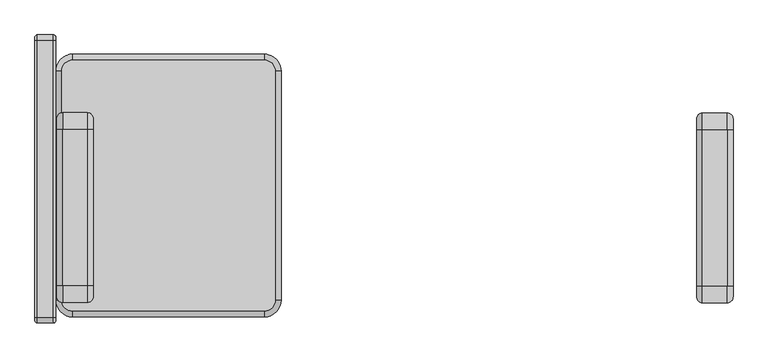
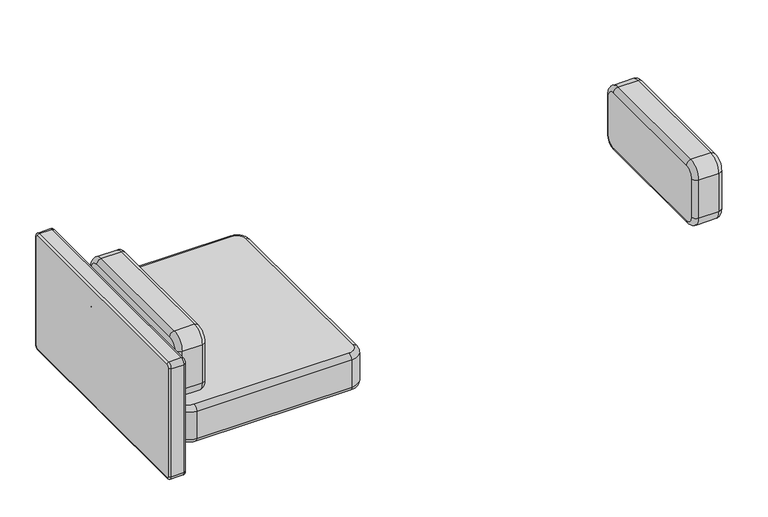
"""IFC4 building model written with IfcOpenShell, lengths in millimetres: furniture geometry, Fredericia - EJ220 Sofa 3 seaters 67 - 2233 : Fredericia - EJ220 Sofa 3 seaters 67 - 2233."""

from ifc_helpers import new_model, si_unit, point, frame, origin, place, context, project, spatial, circle_curve, ellipse_curve, trimmed, source, transform, mapped, element, save
from ifc_brep_helpers import plane_surface, cylinder_surface, revolved_surface, advanced_brep


def furniture_b410e468(model_context):
    return source(origin(), model_context, "Body", "AdvancedBrep", [
        advanced_brep(
        [(-999.6320736, 7.0681487, 623.8042203), (-999.6320736, 7.0681487, 207.3057774), (-999.6320736, 16.6681487, 197.7057774), (-999.6320736, 833.2580585, 197.7057774), (-999.6320736, 842.8580585, 207.3057774), (-999.6320736, 842.8580585, 623.8042203), (-999.6320736, 833.2580585, 633.4042203), (-999.6320736, 16.6681487, 633.4042203), (-1061.0578822, 7.0681487, 207.3057774), (-1061.0578822, 7.0681487, 623.8042203), (-1061.0578822, 16.6681487, 633.4042203), (-1061.0578822, 833.2580585, 633.4042203), (-1061.0578822, 842.8580585, 623.8042203), (-1061.0578822, 842.8580585, 207.3057774), (-1061.0578822, 833.2580585, 197.7057774), (-1061.0578822, 16.6681487, 197.7057774), (-1007.1320736, -0.4318513, 207.3057774), (-1007.1320736, -0.4318513, 623.8042203), (-1053.5578822, -0.4318513, 623.8042203), (-1053.5578822, -0.4318513, 207.3057774), (-1007.1320736, 16.6681487, 640.9042203), (-1007.1320736, 833.2580585, 640.9042203), (-1053.5578822, 833.2580585, 640.9042203), (-1053.5578822, 16.6681487, 640.9042203), (-1007.1320736, 850.3580585, 623.8042203), (-1007.1320736, 850.3580585, 207.3057774), (-1053.5578822, 850.3580585, 207.3057774), (-1053.5578822, 850.3580585, 623.8042203), (-1007.1320736, 833.2580585, 190.2057774), (-1007.1320736, 16.6681487, 190.2057774), (-1053.5578822, 16.6681487, 190.2057774), (-1053.5578822, 833.2580585, 190.2057774)],
        [
            (0, 1),
            (1, 2, circle_curve(frame((-999.6320736, 16.6681487, 207.3057774), z_axis=(1.0, 0.0, 0.0), x_axis=(0.0, 0.0, -1.0)), 9.6)),
            (2, 3),
            (3, 4, circle_curve(frame((-999.6320736, 833.2580585, 207.3057774), z_axis=(1.0, 0.0, 0.0), x_axis=(0.0, 1.0, 0.0)), 9.6)),
            (4, 5),
            (5, 6, circle_curve(frame((-999.6320736, 833.2580585, 623.8042203), z_axis=(1.0, 0.0, 0.0), x_axis=(0.0, 0.0, 1.0)), 9.6)),
            (6, 7),
            (7, 0, circle_curve(frame((-999.6320736, 16.6681487, 623.8042203), z_axis=(1.0, 0.0, 0.0), x_axis=(0.0, -1.0, 0.0)), 9.6)),
            (8, 9),
            (9, 10, circle_curve(frame((-1061.0578822, 16.6681487, 623.8042203), z_axis=(-1.0, 0.0, 0.0), x_axis=(0.0, -1.0, 0.0)), 9.6)),
            (10, 11),
            (11, 12, circle_curve(frame((-1061.0578822, 833.2580585, 623.8042203), z_axis=(-1.0, 0.0, 0.0), x_axis=(0.0, 0.0, 1.0)), 9.6)),
            (12, 13),
            (13, 14, circle_curve(frame((-1061.0578822, 833.2580585, 207.3057774), z_axis=(-1.0, 0.0, 0.0), x_axis=(0.0, 1.0, 0.0)), 9.6)),
            (14, 15),
            (15, 8, circle_curve(frame((-1061.0578822, 16.6681487, 207.3057774), z_axis=(-1.0, 0.0, 0.0), x_axis=(0.0, 0.0, -1.0)), 9.6)),
            (16, 1, circle_curve(frame((-1007.1320736, 7.0681487, 207.3057774), z_axis=(0.0, 0.0, 1.0), x_axis=(0.0, 1.0, 0.0)), 7.5)),
            (0, 17, circle_curve(frame((-1007.1320736, 7.0681487, 623.8042203), z_axis=(0.0, 0.0, -1.0), x_axis=(0.0, 1.0, 0.0)), 7.5)),
            (17, 16),
            (17, 18),
            (18, 19),
            (19, 16),
            (18, 9, circle_curve(frame((-1053.5578822, 7.0681487, 623.8042203), z_axis=(0.0, 0.0, -1.0), x_axis=(0.0, 1.0, 0.0)), 7.5)),
            (8, 19, circle_curve(frame((-1053.5578822, 7.0681487, 207.3057774), z_axis=(0.0, 0.0, 1.0), x_axis=(0.0, 1.0, 0.0)), 7.5)),
            (20, 7, circle_curve(frame((-1007.1320736, 16.6681487, 633.4042203), z_axis=(0.0, 1.0, 0.0), x_axis=(0.0, 0.0, -1.0)), 7.5)),
            (6, 21, circle_curve(frame((-1007.1320736, 833.2580585, 633.4042203), z_axis=(0.0, -1.0, 0.0), x_axis=(0.0, 0.0, -1.0)), 7.5)),
            (21, 20),
            (21, 22),
            (22, 23),
            (23, 20),
            (22, 11, circle_curve(frame((-1053.5578822, 833.2580585, 633.4042203), z_axis=(0.0, -1.0, 0.0), x_axis=(0.0, 0.0, -1.0)), 7.5)),
            (10, 23, circle_curve(frame((-1053.5578822, 16.6681487, 633.4042203), z_axis=(0.0, 1.0, 0.0), x_axis=(0.0, 0.0, -1.0)), 7.5)),
            (24, 5, circle_curve(frame((-1007.1320736, 842.8580585, 623.8042203), z_axis=(0.0, 0.0, -1.0), x_axis=(0.0, -1.0, 0.0)), 7.5)),
            (4, 25, circle_curve(frame((-1007.1320736, 842.8580585, 207.3057774), z_axis=(0.0, 0.0, 1.0), x_axis=(0.0, -1.0, 0.0)), 7.5)),
            (25, 24),
            (25, 26),
            (26, 27),
            (27, 24),
            (26, 13, circle_curve(frame((-1053.5578822, 842.8580585, 207.3057774), z_axis=(0.0, 0.0, 1.0), x_axis=(0.0, -1.0, 0.0)), 7.5)),
            (12, 27, circle_curve(frame((-1053.5578822, 842.8580585, 623.8042203), z_axis=(0.0, 0.0, -1.0), x_axis=(0.0, -1.0, 0.0)), 7.5)),
            (28, 3, circle_curve(frame((-1007.1320736, 833.2580585, 197.7057774), z_axis=(0.0, -1.0, 0.0), x_axis=(0.0, 0.0, 1.0)), 7.5)),
            (2, 29, circle_curve(frame((-1007.1320736, 16.6681487, 197.7057774), z_axis=(0.0, 1.0, 0.0), x_axis=(0.0, 0.0, 1.0)), 7.5)),
            (29, 28),
            (29, 30),
            (30, 31),
            (31, 28),
            (30, 15, circle_curve(frame((-1053.5578822, 16.6681487, 197.7057774), z_axis=(0.0, 1.0, 0.0), x_axis=(0.0, 0.0, 1.0)), 7.5)),
            (14, 31, circle_curve(frame((-1053.5578822, 833.2580585, 197.7057774), z_axis=(0.0, -1.0, 0.0), x_axis=(0.0, 0.0, 1.0)), 7.5)),
            (16, 29, circle_curve(frame((-1007.1320736, 16.6681487, 207.3057774), z_axis=(1.0, 0.0, 0.0), x_axis=(0.0, 0.0, -1.0)), 17.1)),
            (19, 30, circle_curve(frame((-1053.5578822, 16.6681487, 207.3057774), z_axis=(1.0, 0.0, 0.0), x_axis=(0.0, 0.0, -1.0)), 17.1)),
            (20, 17, circle_curve(frame((-1007.1320736, 16.6681487, 623.8042203), z_axis=(1.0, 0.0, 0.0), x_axis=(0.0, -1.0, 0.0)), 17.1)),
            (23, 18, circle_curve(frame((-1053.5578822, 16.6681487, 623.8042203), z_axis=(1.0, 0.0, 0.0), x_axis=(0.0, -1.0, 0.0)), 17.1)),
            (24, 21, circle_curve(frame((-1007.1320736, 833.2580585, 623.8042203), z_axis=(1.0, 0.0, 0.0), x_axis=(0.0, 0.0, 1.0)), 17.1)),
            (27, 22, circle_curve(frame((-1053.5578822, 833.2580585, 623.8042203), z_axis=(1.0, 0.0, 0.0), x_axis=(0.0, 0.0, 1.0)), 17.1)),
            (28, 25, circle_curve(frame((-1007.1320736, 833.2580585, 207.3057774), z_axis=(1.0, 0.0, 0.0), x_axis=(0.0, 1.0, 0.0)), 17.1)),
            (31, 26, circle_curve(frame((-1053.5578822, 833.2580585, 207.3057774), z_axis=(1.0, 0.0, 0.0), x_axis=(0.0, 1.0, 0.0)), 17.1)),
        ],
        [
            plane_surface(frame((-999.6320736, 828.5456131, 625.9042203), z_axis=(1.0, 0.0, 0.0), x_axis=(0.0, -1.0, 0.0))),
            plane_surface(frame((-1061.0578822, 828.5456131, 625.9042203), z_axis=(-1.0, 0.0, 0.0), x_axis=(0.0, 1.0, 0.0))),
            cylinder_surface(frame((-1007.1320736, 7.0681487, 207.3057774), z_axis=(0.0, 0.0, -1.0), x_axis=(0.0, 1.0, 0.0)), 7.5),
            plane_surface(frame((-1007.1320736, -0.4318513, 207.3057774), z_axis=(0.0, -1.0, 0.0), x_axis=(0.0, 0.0, 1.0))),
            cylinder_surface(frame((-1053.5578822, 7.0681487, 207.3057774), z_axis=(0.0, 0.0, -1.0), x_axis=(0.0, 1.0, 0.0)), 7.5),
            cylinder_surface(frame((-1007.1320736, 16.6681487, 633.4042203), z_axis=(0.0, -1.0, 0.0), x_axis=(0.0, 0.0, -1.0)), 7.5),
            plane_surface(frame((-1007.1320736, 16.6681487, 640.9042203), z_axis=(0.0, 0.0, 1.0), x_axis=(0.0, 1.0, 0.0))),
            cylinder_surface(frame((-1053.5578822, 16.6681487, 633.4042203), z_axis=(0.0, -1.0, 0.0), x_axis=(0.0, 0.0, -1.0)), 7.5),
            cylinder_surface(frame((-1007.1320736, 842.8580585, 623.8042203), z_axis=(0.0, 0.0, 1.0), x_axis=(0.0, -1.0, 0.0)), 7.5),
            plane_surface(frame((-1007.1320736, 850.3580585, 623.8042203), z_axis=(0.0, 1.0, 0.0), x_axis=(0.0, 0.0, -1.0))),
            cylinder_surface(frame((-1053.5578822, 842.8580585, 623.8042203), z_axis=(0.0, 0.0, 1.0), x_axis=(0.0, -1.0, 0.0)), 7.5),
            cylinder_surface(frame((-1007.1320736, 833.2580585, 197.7057774), z_axis=(0.0, 1.0, 0.0), x_axis=(0.0, 0.0, 1.0)), 7.5),
            plane_surface(frame((-1007.1320736, 833.2580585, 190.2057774), z_axis=(0.0, 0.0, -1.0), x_axis=(0.0, -1.0, 0.0))),
            cylinder_surface(frame((-1053.5578822, 833.2580585, 197.7057774), z_axis=(0.0, 1.0, 0.0), x_axis=(0.0, 0.0, 1.0)), 7.5),
            revolved_surface(trimmed(ellipse_curve(frame((-1007.1320736, 16.6681487, 197.7057774), z_axis=(0.0, 1.0, 0.0), x_axis=(0.0, 0.0, 1.0)), 7.5, 7.5), [point((-999.6320736, 16.6681487, 197.7057774))], [point((-1007.1320736, 16.6681487, 190.2057774))], True, "CARTESIAN"), (-1061.0578822, 16.6681487, 207.3057774), (-1.0, 0.0, 0.0)),
            cylinder_surface(frame((-1061.0578822, 16.6681487, 207.3057774), z_axis=(-1.0, 0.0, 0.0), x_axis=(0.0, 0.0, -1.0)), 17.1),
            revolved_surface(trimmed(ellipse_curve(frame((-1053.5578822, 16.6681487, 197.7057774), z_axis=(0.0, 1.0, 0.0), x_axis=(0.0, 0.0, 1.0)), 7.5, 7.5), [point((-1053.5578822, 16.6681487, 190.2057774))], [point((-1061.0578822, 16.6681487, 197.7057774))], True, "CARTESIAN"), (-1061.0578822, 16.6681487, 207.3057774), (-1.0, 0.0, 0.0)),
            revolved_surface(trimmed(ellipse_curve(frame((-1007.1320736, 7.0681487, 623.8042203), z_axis=(0.0, 0.0, -1.0), x_axis=(0.0, 1.0, 0.0)), 7.5, 7.5), [point((-999.6320736, 7.0681487, 623.8042203))], [point((-1007.1320736, -0.4318513, 623.8042203))], True, "CARTESIAN"), (-1061.0578822, 16.6681487, 623.8042203), (-1.0, 0.0, 0.0)),
            cylinder_surface(frame((-1061.0578822, 16.6681487, 623.8042203), z_axis=(-1.0, 0.0, 0.0), x_axis=(0.0, -1.0, 0.0)), 17.1),
            revolved_surface(trimmed(ellipse_curve(frame((-1053.5578822, 7.0681487, 623.8042203), z_axis=(0.0, 0.0, -1.0), x_axis=(0.0, 1.0, 0.0)), 7.5, 7.5), [point((-1053.5578822, -0.4318513, 623.8042203))], [point((-1061.0578822, 7.0681487, 623.8042203))], True, "CARTESIAN"), (-1061.0578822, 16.6681487, 623.8042203), (-1.0, 0.0, 0.0)),
            revolved_surface(trimmed(ellipse_curve(frame((-1007.1320736, 833.2580585, 633.4042203), z_axis=(0.0, -1.0, 0.0), x_axis=(0.0, 0.0, -1.0)), 7.5, 7.5), [point((-999.6320736, 833.2580585, 633.4042203))], [point((-1007.1320736, 833.2580585, 640.9042203))], True, "CARTESIAN"), (-1061.0578822, 833.2580585, 623.8042203), (-1.0, 0.0, 0.0)),
            cylinder_surface(frame((-1061.0578822, 833.2580585, 623.8042203), z_axis=(-1.0, 0.0, 0.0), x_axis=(0.0, 0.0, 1.0)), 17.1),
            revolved_surface(trimmed(ellipse_curve(frame((-1053.5578822, 833.2580585, 633.4042203), z_axis=(0.0, -1.0, 0.0), x_axis=(0.0, 0.0, -1.0)), 7.5, 7.5), [point((-1053.5578822, 833.2580585, 640.9042203))], [point((-1061.0578822, 833.2580585, 633.4042203))], True, "CARTESIAN"), (-1061.0578822, 833.2580585, 623.8042203), (-1.0, 0.0, 0.0)),
            revolved_surface(trimmed(ellipse_curve(frame((-1007.1320736, 842.8580585, 207.3057774), z_axis=(0.0, 0.0, 1.0), x_axis=(0.0, -1.0, 0.0)), 7.5, 7.5), [point((-999.6320736, 842.8580585, 207.3057774))], [point((-1007.1320736, 850.3580585, 207.3057774))], True, "CARTESIAN"), (-1061.0578822, 833.2580585, 207.3057774), (-1.0, 0.0, 0.0)),
            cylinder_surface(frame((-1061.0578822, 833.2580585, 207.3057774), z_axis=(-1.0, 0.0, 0.0), x_axis=(0.0, 1.0, 0.0)), 17.1),
            revolved_surface(trimmed(ellipse_curve(frame((-1053.5578822, 842.8580585, 207.3057774), z_axis=(0.0, 0.0, 1.0), x_axis=(0.0, -1.0, 0.0)), 7.5, 7.5), [point((-1053.5578822, 850.3580585, 207.3057774))], [point((-1061.0578822, 842.8580585, 207.3057774))], True, "CARTESIAN"), (-1061.0578822, 833.2580585, 207.3057774), (-1.0, 0.0, 0.0)),
        ],
        [
            (0, [[1, 2, 3, 4, 5, 6, 7, 8]]),
            (1, [[9, 10, 11, 12, 13, 14, 15, 16]]),
            (2, [[17, -1, 18, 19]]),
            (3, [[-19, 20, 21, 22]]),
            (4, [[-21, 23, -9, 24]]),
            (5, [[25, -7, 26, 27]]),
            (6, [[-27, 28, 29, 30]]),
            (7, [[-29, 31, -11, 32]]),
            (8, [[33, -5, 34, 35]]),
            (9, [[-35, 36, 37, 38]]),
            (10, [[-37, 39, -13, 40]]),
            (11, [[41, -3, 42, 43]]),
            (12, [[-43, 44, 45, 46]]),
            (13, [[-45, 47, -15, 48]]),
            (14, [[-17, 49, -42, -2]]),
            (15, [[-22, 50, -44, -49]]),
            (16, [[-24, -16, -47, -50]]),
            (17, [[-18, -8, -25, 51]]),
            (18, [[-20, -51, -30, 52]]),
            (19, [[-23, -52, -32, -10]]),
            (20, [[-26, -6, -33, 53]]),
            (21, [[-28, -53, -38, 54]]),
            (22, [[-31, -54, -40, -12]]),
            (23, [[-34, -4, -41, 55]]),
            (24, [[-36, -55, -46, 56]]),
            (25, [[-39, -56, -48, -14]]),
        ],
    ),
        advanced_brep(
        [(-982.2998936, 67.7, 290.0), (-982.2998936, 743.0641303, 290.0), (-949.6320736, 775.7319503, 290.0), (-385.0, 775.7319503, 290.0), (-352.3321801, 743.0641303, 290.0), (-352.3321801, 67.7, 290.0), (-385.0, 35.0321801, 290.0), (-949.6320736, 35.0321801, 290.0), (-982.2998936, 743.0641303, 429.8211901), (-982.2998936, 67.7, 429.8211901), (-949.6320736, 35.0321801, 429.8211901), (-385.0, 35.0321801, 429.8211901), (-352.3321801, 67.7, 429.8211901), (-352.3321801, 743.0641303, 429.8211901), (-385.0, 775.7319503, 429.8211901), (-949.6320736, 775.7319503, 429.8211901), (-999.6320736, 743.0641303, 412.4890101), (-999.6320736, 743.0641303, 307.3273289), (-999.6320736, 67.7, 307.3273289), (-999.6320736, 67.7, 412.4890101), (-949.6320736, 17.7, 412.4890101), (-949.6320736, 17.7, 307.3273289), (-385.0, 17.7, 307.3273289), (-385.0, 17.7, 412.4890101), (-335.0, 67.7, 412.4890101), (-335.0, 67.7, 307.3273289), (-335.0, 743.0641303, 307.3273289), (-335.0, 743.0641303, 412.4890101), (-385.0, 793.0641303, 412.4890101), (-385.0, 793.0641303, 307.3273289), (-949.6320736, 793.0641303, 307.3273289), (-949.6320736, 793.0641303, 412.4890101)],
        [
            (0, 1),
            (1, 2, circle_curve(frame((-949.6320736, 743.0641303, 290.0), z_axis=(0.0, 0.0, -1.0), x_axis=(0.0, 1.0, 0.0)), 32.6678199)),
            (2, 3),
            (3, 4, circle_curve(frame((-385.0, 743.0641303, 290.0), z_axis=(0.0, 0.0, -1.0), x_axis=(1.0, 0.0, 0.0)), 32.6678199)),
            (4, 5),
            (5, 6, circle_curve(frame((-385.0, 67.7, 290.0), z_axis=(0.0, 0.0, -1.0), x_axis=(0.0, -1.0, 0.0)), 32.6678199)),
            (6, 7),
            (7, 0, circle_curve(frame((-949.6320736, 67.7, 290.0), z_axis=(0.0, 0.0, -1.0), x_axis=(-1.0, 0.0, 0.0)), 32.6678199)),
            (8, 9),
            (9, 10, circle_curve(frame((-949.6320736, 67.7, 429.8211901), z_axis=(0.0, 0.0, 1.0), x_axis=(-1.0, 0.0, 0.0)), 32.6678199)),
            (10, 11),
            (11, 12, circle_curve(frame((-385.0, 67.7, 429.8211901), z_axis=(0.0, 0.0, 1.0), x_axis=(0.0, -1.0, 0.0)), 32.6678199)),
            (12, 13),
            (13, 14, circle_curve(frame((-385.0, 743.0641303, 429.8211901), z_axis=(0.0, 0.0, 1.0), x_axis=(1.0, 0.0, 0.0)), 32.6678199)),
            (14, 15),
            (15, 8, circle_curve(frame((-949.6320736, 743.0641303, 429.8211901), z_axis=(0.0, 0.0, 1.0), x_axis=(0.0, 1.0, 0.0)), 32.6678199)),
            (16, 17),
            (17, 18),
            (18, 19),
            (19, 16),
            (20, 21),
            (21, 22),
            (22, 23),
            (23, 20),
            (24, 25),
            (25, 26),
            (26, 27),
            (27, 24),
            (28, 29),
            (29, 30),
            (30, 31),
            (31, 28),
            (17, 1, circle_curve(frame((-982.2998936, 743.0641303, 307.3273289), z_axis=(0.0, -1.0, 0.0), x_axis=(1.0, 0.0, 0.0)), 17.3321801)),
            (0, 18, circle_curve(frame((-982.2998936, 67.7, 307.3273289), z_axis=(0.0, 1.0, 0.0), x_axis=(1.0, 0.0, 0.0)), 17.3321801)),
            (19, 9, circle_curve(frame((-982.2998936, 67.7, 412.4890101), z_axis=(0.0, 1.0, 0.0), x_axis=(1.0, 0.0, 0.0)), 17.3321801)),
            (8, 16, circle_curve(frame((-982.2998936, 743.0641303, 412.4890101), z_axis=(0.0, -1.0, 0.0), x_axis=(1.0, 0.0, 0.0)), 17.3321801)),
            (21, 7, circle_curve(frame((-949.6320736, 35.0321801, 307.3273289), z_axis=(1.0, 0.0, 0.0), x_axis=(0.0, 1.0, 0.0)), 17.3321801)),
            (6, 22, circle_curve(frame((-385.0, 35.0321801, 307.3273289), z_axis=(-1.0, 0.0, 0.0), x_axis=(0.0, 1.0, 0.0)), 17.3321801)),
            (23, 11, circle_curve(frame((-385.0, 35.0321801, 412.4890101), z_axis=(-1.0, 0.0, 0.0), x_axis=(0.0, 1.0, 0.0)), 17.3321801)),
            (10, 20, circle_curve(frame((-949.6320736, 35.0321801, 412.4890101), z_axis=(1.0, 0.0, 0.0), x_axis=(0.0, 1.0, 0.0)), 17.3321801)),
            (25, 5, circle_curve(frame((-352.3321801, 67.7, 307.3273289), z_axis=(0.0, 1.0, 0.0), x_axis=(-1.0, 0.0, 0.0)), 17.3321801)),
            (4, 26, circle_curve(frame((-352.3321801, 743.0641303, 307.3273289), z_axis=(0.0, -1.0, 0.0), x_axis=(-1.0, 0.0, 0.0)), 17.3321801)),
            (27, 13, circle_curve(frame((-352.3321801, 743.0641303, 412.4890101), z_axis=(0.0, -1.0, 0.0), x_axis=(-1.0, 0.0, 0.0)), 17.3321801)),
            (12, 24, circle_curve(frame((-352.3321801, 67.7, 412.4890101), z_axis=(0.0, 1.0, 0.0), x_axis=(-1.0, 0.0, 0.0)), 17.3321801)),
            (29, 3, circle_curve(frame((-385.0, 775.7319503, 307.3273289), z_axis=(-1.0, 0.0, 0.0), x_axis=(0.0, -1.0, 0.0)), 17.3321801)),
            (2, 30, circle_curve(frame((-949.6320736, 775.7319503, 307.3273289), z_axis=(1.0, 0.0, 0.0), x_axis=(0.0, -1.0, 0.0)), 17.3321801)),
            (31, 15, circle_curve(frame((-949.6320736, 775.7319503, 412.4890101), z_axis=(1.0, 0.0, 0.0), x_axis=(0.0, -1.0, 0.0)), 17.3321801)),
            (14, 28, circle_curve(frame((-385.0, 775.7319503, 412.4890101), z_axis=(-1.0, 0.0, 0.0), x_axis=(0.0, -1.0, 0.0)), 17.3321801)),
            (17, 30, circle_curve(frame((-949.6320736, 743.0641303, 307.3273289), z_axis=(0.0, 0.0, -1.0), x_axis=(0.0, 1.0, 0.0)), 50.0)),
            (16, 31, circle_curve(frame((-949.6320736, 743.0641303, 412.4890101), z_axis=(0.0, 0.0, -1.0), x_axis=(0.0, 1.0, 0.0)), 50.0)),
            (21, 18, circle_curve(frame((-949.6320736, 67.7, 307.3273289), z_axis=(0.0, 0.0, -1.0), x_axis=(-1.0, 0.0, 0.0)), 50.0)),
            (20, 19, circle_curve(frame((-949.6320736, 67.7, 412.4890101), z_axis=(0.0, 0.0, -1.0), x_axis=(-1.0, 0.0, 0.0)), 50.0)),
            (25, 22, circle_curve(frame((-385.0, 67.7, 307.3273289), z_axis=(0.0, 0.0, -1.0), x_axis=(0.0, -1.0, 0.0)), 50.0)),
            (24, 23, circle_curve(frame((-385.0, 67.7, 412.4890101), z_axis=(0.0, 0.0, -1.0), x_axis=(0.0, -1.0, 0.0)), 50.0)),
            (29, 26, circle_curve(frame((-385.0, 743.0641303, 307.3273289), z_axis=(0.0, 0.0, -1.0), x_axis=(1.0, 0.0, 0.0)), 50.0)),
            (28, 27, circle_curve(frame((-385.0, 743.0641303, 412.4890101), z_axis=(0.0, 0.0, -1.0), x_axis=(1.0, 0.0, 0.0)), 50.0)),
        ],
        [
            plane_surface(frame((401.9530797, 37.7, 290.0), z_axis=(0.0, 0.0, -1.0), x_axis=(-1.0, 0.0, 0.0))),
            plane_surface(frame((401.9530797, 37.7, 429.8211901), z_axis=(0.0, 0.0, 1.0), x_axis=(1.0, 0.0, 0.0))),
            plane_surface(frame((-999.6320736, 743.0641303, 307.3273289), z_axis=(-1.0, 0.0, 0.0), x_axis=(0.0, -1.0, 0.0))),
            plane_surface(frame((-949.6320736, 17.7, 307.3273289), z_axis=(0.0, -1.0, 0.0), x_axis=(1.0, 0.0, 0.0))),
            plane_surface(frame((-335.0, 67.7, 307.3273289), z_axis=(1.0, 0.0, 0.0), x_axis=(0.0, 1.0, 0.0))),
            plane_surface(frame((-385.0, 793.0641303, 307.3273289), z_axis=(0.0, 1.0, 0.0), x_axis=(-1.0, 0.0, 0.0))),
            cylinder_surface(frame((-982.2998936, 743.0641303, 307.3273289), z_axis=(0.0, 1.0, 0.0), x_axis=(1.0, 0.0, 0.0)), 17.3321801),
            cylinder_surface(frame((-982.2998936, 743.0641303, 412.4890101), z_axis=(0.0, 1.0, 0.0), x_axis=(1.0, 0.0, 0.0)), 17.3321801),
            cylinder_surface(frame((-949.6320736, 35.0321801, 307.3273289), z_axis=(-1.0, 0.0, 0.0), x_axis=(0.0, 1.0, 0.0)), 17.3321801),
            cylinder_surface(frame((-949.6320736, 35.0321801, 412.4890101), z_axis=(-1.0, 0.0, 0.0), x_axis=(0.0, 1.0, 0.0)), 17.3321801),
            cylinder_surface(frame((-352.3321801, 67.7, 307.3273289), z_axis=(0.0, -1.0, 0.0), x_axis=(-1.0, 0.0, 0.0)), 17.3321801),
            cylinder_surface(frame((-352.3321801, 67.7, 412.4890101), z_axis=(0.0, -1.0, 0.0), x_axis=(-1.0, 0.0, 0.0)), 17.3321801),
            cylinder_surface(frame((-385.0, 775.7319503, 307.3273289), z_axis=(1.0, 0.0, 0.0), x_axis=(0.0, -1.0, 0.0)), 17.3321801),
            cylinder_surface(frame((-385.0, 775.7319503, 412.4890101), z_axis=(1.0, 0.0, 0.0), x_axis=(0.0, -1.0, 0.0)), 17.3321801),
            revolved_surface(trimmed(ellipse_curve(frame((-949.6320736, 775.7319503, 307.3273289), z_axis=(1.0, 0.0, 0.0), x_axis=(0.0, -1.0, 0.0)), 17.3321801, 17.3321801), [point((-949.6320736, 775.7319503, 289.9951488))], [point((-949.6320736, 793.0641303, 307.3273289))], True, "CARTESIAN"), (-949.6320736, 743.0641303, 474.7169816), (0.0, 0.0, 1.0)),
            cylinder_surface(frame((-949.6320736, 743.0641303, 474.7169816), z_axis=(0.0, 0.0, 1.0), x_axis=(0.0, 1.0, 0.0)), 50.0),
            revolved_surface(trimmed(ellipse_curve(frame((-949.6320736, 775.7319503, 412.4890101), z_axis=(1.0, 0.0, 0.0), x_axis=(0.0, -1.0, 0.0)), 17.3321801, 17.3321801), [point((-949.6320736, 793.0641303, 412.4890101))], [point((-949.6320736, 775.7319503, 429.8211901))], True, "CARTESIAN"), (-949.6320736, 743.0641303, 474.7169816), (0.0, 0.0, 1.0)),
            revolved_surface(trimmed(ellipse_curve(frame((-982.2998936, 67.7, 307.3273289), z_axis=(0.0, 1.0, 0.0), x_axis=(1.0, 0.0, 0.0)), 17.3321801, 17.3321801), [point((-982.2998936, 67.7, 289.9951488))], [point((-999.6320736, 67.7, 307.3273289))], True, "CARTESIAN"), (-949.6320736, 67.7, 474.7169816), (0.0, 0.0, 1.0)),
            cylinder_surface(frame((-949.6320736, 67.7, 474.7169816), z_axis=(0.0, 0.0, 1.0), x_axis=(-1.0, 0.0, 0.0)), 50.0),
            revolved_surface(trimmed(ellipse_curve(frame((-982.2998936, 67.7, 412.4890101), z_axis=(0.0, 1.0, 0.0), x_axis=(1.0, 0.0, 0.0)), 17.3321801, 17.3321801), [point((-999.6320736, 67.7, 412.4890101))], [point((-982.2998936, 67.7, 429.8211901))], True, "CARTESIAN"), (-949.6320736, 67.7, 474.7169816), (0.0, 0.0, 1.0)),
            revolved_surface(trimmed(ellipse_curve(frame((-385.0, 35.0321801, 307.3273289), z_axis=(-1.0, 0.0, 0.0), x_axis=(0.0, 1.0, 0.0)), 17.3321801, 17.3321801), [point((-385.0, 35.0321801, 289.9951488))], [point((-385.0, 17.7, 307.3273289))], True, "CARTESIAN"), (-385.0, 67.7, 474.7169816), (0.0, 0.0, 1.0)),
            cylinder_surface(frame((-385.0, 67.7, 474.7169816), z_axis=(0.0, 0.0, 1.0), x_axis=(0.0, -1.0, 0.0)), 50.0),
            revolved_surface(trimmed(ellipse_curve(frame((-385.0, 35.0321801, 412.4890101), z_axis=(-1.0, 0.0, 0.0), x_axis=(0.0, 1.0, 0.0)), 17.3321801, 17.3321801), [point((-385.0, 17.7, 412.4890101))], [point((-385.0, 35.0321801, 429.8211901))], True, "CARTESIAN"), (-385.0, 67.7, 474.7169816), (0.0, 0.0, 1.0)),
            revolved_surface(trimmed(ellipse_curve(frame((-352.3321801, 743.0641303, 307.3273289), z_axis=(0.0, -1.0, 0.0), x_axis=(-1.0, 0.0, 0.0)), 17.3321801, 17.3321801), [point((-352.3321801, 743.0641303, 289.9951488))], [point((-335.0, 743.0641303, 307.3273289))], True, "CARTESIAN"), (-385.0, 743.0641303, 474.7169816), (0.0, 0.0, 1.0)),
            cylinder_surface(frame((-385.0, 743.0641303, 474.7169816), z_axis=(0.0, 0.0, 1.0), x_axis=(1.0, 0.0, 0.0)), 50.0),
            revolved_surface(trimmed(ellipse_curve(frame((-352.3321801, 743.0641303, 412.4890101), z_axis=(0.0, -1.0, 0.0), x_axis=(-1.0, 0.0, 0.0)), 17.3321801, 17.3321801), [point((-335.0, 743.0641303, 412.4890101))], [point((-352.3321801, 743.0641303, 429.8211901))], True, "CARTESIAN"), (-385.0, 743.0641303, 474.7169816), (0.0, 0.0, 1.0)),
        ],
        [
            (0, [[1, 2, 3, 4, 5, 6, 7, 8]]),
            (1, [[9, 10, 11, 12, 13, 14, 15, 16]]),
            (2, [[17, 18, 19, 20]]),
            (3, [[21, 22, 23, 24]]),
            (4, [[25, 26, 27, 28]]),
            (5, [[29, 30, 31, 32]]),
            (6, [[-18, 33, -1, 34]]),
            (7, [[-20, 35, -9, 36]]),
            (8, [[-22, 37, -7, 38]]),
            (9, [[-24, 39, -11, 40]]),
            (10, [[-26, 41, -5, 42]]),
            (11, [[-28, 43, -13, 44]]),
            (12, [[-30, 45, -3, 46]]),
            (13, [[-32, 47, -15, 48]]),
            (14, [[-33, 49, -46, -2]]),
            (15, [[-17, 50, -31, -49]]),
            (16, [[-36, -16, -47, -50]]),
            (17, [[-34, -8, -37, 51]]),
            (18, [[-19, -51, -21, 52]]),
            (19, [[-35, -52, -40, -10]]),
            (20, [[-38, -6, -41, 53]]),
            (21, [[-23, -53, -25, 54]]),
            (22, [[-39, -54, -44, -12]]),
            (23, [[-42, -4, -45, 55]]),
            (24, [[-27, -55, -29, 56]]),
            (25, [[-43, -56, -48, -14]]),
        ],
    ),
        advanced_brep(
        [(997.4140678, 569.5681487, 663.3026247), (997.4140678, 109.5681487, 663.3026247), (997.4140678, 76.9003288, 630.6348048), (997.4140678, 76.9003288, 484.0806659), (997.4140678, 109.5681487, 451.412846), (997.4140678, 569.5681487, 451.412846), (997.4140678, 602.2359687, 484.0806659), (997.4140678, 602.2359687, 630.6348048), (889.7501158, 109.5681487, 663.3026247), (889.7501158, 569.5681487, 663.3026247), (889.7501158, 602.2359687, 630.6348048), (889.7501158, 602.2359687, 484.0806659), (889.7501158, 569.5681487, 451.412846), (889.7501158, 109.5681487, 451.412846), (889.7501158, 76.9003288, 484.0806659), (889.7501158, 76.9003288, 630.6348048), (980.086739, 569.5681487, 680.6348048), (907.093458, 569.5681487, 680.6348048), (907.093458, 109.5681487, 680.6348048), (980.086739, 109.5681487, 680.6348048), (980.086739, 59.5681487, 630.6348048), (907.093458, 59.5681487, 630.6348048), (907.093458, 59.5681487, 484.0806659), (980.086739, 59.5681487, 484.0806659), (980.086739, 109.5681487, 434.0806659), (907.093458, 109.5681487, 434.0806659), (907.093458, 569.5681487, 434.0806659), (980.086739, 569.5681487, 434.0806659), (980.086739, 619.5681487, 484.0806659), (907.093458, 619.5681487, 484.0806659), (907.093458, 619.5681487, 630.6348048), (980.086739, 619.5681487, 630.6348048)],
        [
            (0, 1),
            (1, 2, circle_curve(frame((997.4140678, 109.5681487, 630.6348048), z_axis=(1.0, 0.0, 0.0), x_axis=(0.0, 0.0, 1.0)), 32.6678199)),
            (2, 3),
            (3, 4, circle_curve(frame((997.4140678, 109.5681487, 484.0806659), z_axis=(1.0, 0.0, 0.0), x_axis=(0.0, -1.0, 0.0)), 32.6678199)),
            (4, 5),
            (5, 6, circle_curve(frame((997.4140678, 569.5681487, 484.0806659), z_axis=(1.0, 0.0, 0.0), x_axis=(0.0, 0.0, -1.0)), 32.6678199)),
            (6, 7),
            (7, 0, circle_curve(frame((997.4140678, 569.5681487, 630.6348048), z_axis=(1.0, 0.0, 0.0), x_axis=(0.0, 1.0, 0.0)), 32.6678199)),
            (8, 9),
            (9, 10, circle_curve(frame((889.7501158, 569.5681487, 630.6348048), z_axis=(-1.0, 0.0, 0.0), x_axis=(0.0, 1.0, 0.0)), 32.6678199)),
            (10, 11),
            (11, 12, circle_curve(frame((889.7501158, 569.5681487, 484.0806659), z_axis=(-1.0, 0.0, 0.0), x_axis=(0.0, 0.0, -1.0)), 32.6678199)),
            (12, 13),
            (13, 14, circle_curve(frame((889.7501158, 109.5681487, 484.0806659), z_axis=(-1.0, 0.0, 0.0), x_axis=(0.0, -1.0, 0.0)), 32.6678199)),
            (14, 15),
            (15, 8, circle_curve(frame((889.7501158, 109.5681487, 630.6348048), z_axis=(-1.0, 0.0, 0.0), x_axis=(0.0, 0.0, 1.0)), 32.6678199)),
            (16, 17),
            (17, 18),
            (18, 19),
            (19, 16),
            (20, 21),
            (21, 22),
            (22, 23),
            (23, 20),
            (24, 25),
            (25, 26),
            (26, 27),
            (27, 24),
            (28, 29),
            (29, 30),
            (30, 31),
            (31, 28),
            (19, 1, circle_curve(frame((980.086739, 109.5681487, 663.3026247), z_axis=(0.0, 1.0, 0.0), x_axis=(0.0, 0.0, -1.0)), 17.3321801)),
            (0, 16, circle_curve(frame((980.086739, 569.5681487, 663.3026247), z_axis=(0.0, -1.0, 0.0), x_axis=(0.0, 0.0, -1.0)), 17.3321801)),
            (17, 9, circle_curve(frame((907.093458, 569.5681487, 663.3026247), z_axis=(0.0, -1.0, 0.0), x_axis=(0.0, 0.0, -1.0)), 17.3321801)),
            (8, 18, circle_curve(frame((907.093458, 109.5681487, 663.3026247), z_axis=(0.0, 1.0, 0.0), x_axis=(0.0, 0.0, -1.0)), 17.3321801)),
            (23, 3, circle_curve(frame((980.086739, 76.9003288, 484.0806659), z_axis=(0.0, 0.0, 1.0), x_axis=(0.0, 1.0, 0.0)), 17.3321801)),
            (2, 20, circle_curve(frame((980.086739, 76.9003288, 630.6348048), z_axis=(0.0, 0.0, -1.0), x_axis=(0.0, 1.0, 0.0)), 17.3321801)),
            (21, 15, circle_curve(frame((907.093458, 76.9003288, 630.6348048), z_axis=(0.0, 0.0, -1.0), x_axis=(0.0, 1.0, 0.0)), 17.3321801)),
            (14, 22, circle_curve(frame((907.093458, 76.9003288, 484.0806659), z_axis=(0.0, 0.0, 1.0), x_axis=(0.0, 1.0, 0.0)), 17.3321801)),
            (27, 5, circle_curve(frame((980.086739, 569.5681487, 451.412846), z_axis=(0.0, -1.0, 0.0), x_axis=(0.0, 0.0, 1.0)), 17.3321801)),
            (4, 24, circle_curve(frame((980.086739, 109.5681487, 451.412846), z_axis=(0.0, 1.0, 0.0), x_axis=(0.0, 0.0, 1.0)), 17.3321801)),
            (25, 13, circle_curve(frame((907.093458, 109.5681487, 451.412846), z_axis=(0.0, 1.0, 0.0), x_axis=(0.0, 0.0, 1.0)), 17.3321801)),
            (12, 26, circle_curve(frame((907.093458, 569.5681487, 451.412846), z_axis=(0.0, -1.0, 0.0), x_axis=(0.0, 0.0, 1.0)), 17.3321801)),
            (31, 7, circle_curve(frame((980.086739, 602.2359687, 630.6348048), z_axis=(0.0, 0.0, -1.0), x_axis=(0.0, -1.0, 0.0)), 17.3321801)),
            (6, 28, circle_curve(frame((980.086739, 602.2359687, 484.0806659), z_axis=(0.0, 0.0, 1.0), x_axis=(0.0, -1.0, 0.0)), 17.3321801)),
            (29, 11, circle_curve(frame((907.093458, 602.2359687, 484.0806659), z_axis=(0.0, 0.0, 1.0), x_axis=(0.0, -1.0, 0.0)), 17.3321801)),
            (10, 30, circle_curve(frame((907.093458, 602.2359687, 630.6348048), z_axis=(0.0, 0.0, -1.0), x_axis=(0.0, -1.0, 0.0)), 17.3321801)),
            (31, 16, circle_curve(frame((980.086739, 569.5681487, 630.6348048), z_axis=(1.0, 0.0, 0.0), x_axis=(0.0, 1.0, 0.0)), 50.0)),
            (30, 17, circle_curve(frame((907.093458, 569.5681487, 630.6348048), z_axis=(1.0, 0.0, 0.0), x_axis=(0.0, 1.0, 0.0)), 50.0)),
            (19, 20, circle_curve(frame((980.086739, 109.5681487, 630.6348048), z_axis=(1.0, 0.0, 0.0), x_axis=(0.0, 0.0, 1.0)), 50.0)),
            (18, 21, circle_curve(frame((907.093458, 109.5681487, 630.6348048), z_axis=(1.0, 0.0, 0.0), x_axis=(0.0, 0.0, 1.0)), 50.0)),
            (23, 24, circle_curve(frame((980.086739, 109.5681487, 484.0806659), z_axis=(1.0, 0.0, 0.0), x_axis=(0.0, -1.0, 0.0)), 50.0)),
            (22, 25, circle_curve(frame((907.093458, 109.5681487, 484.0806659), z_axis=(1.0, 0.0, 0.0), x_axis=(0.0, -1.0, 0.0)), 50.0)),
            (27, 28, circle_curve(frame((980.086739, 569.5681487, 484.0806659), z_axis=(1.0, 0.0, 0.0), x_axis=(0.0, 0.0, -1.0)), 50.0)),
            (26, 29, circle_curve(frame((907.093458, 569.5681487, 484.0806659), z_axis=(1.0, 0.0, 0.0), x_axis=(0.0, 0.0, -1.0)), 50.0)),
        ],
        [
            plane_surface(frame((997.4140678, 109.5681487, 600.6348048), z_axis=(1.0, 0.0, 0.0), x_axis=(0.0, 1.0, 0.0))),
            plane_surface(frame((889.7501158, 109.5681487, 600.6348048), z_axis=(-1.0, 0.0, 0.0), x_axis=(0.0, -1.0, 0.0))),
            plane_surface(frame((907.093458, 569.5681487, 680.6348048), z_axis=(0.0, 0.0, 1.0), x_axis=(0.0, -1.0, 0.0))),
            plane_surface(frame((907.093458, 59.5681487, 630.6348048), z_axis=(0.0, -1.0, 0.0), x_axis=(0.0, 0.0, -1.0))),
            plane_surface(frame((907.093458, 109.5681487, 434.0806659), z_axis=(0.0, 0.0, -1.0), x_axis=(0.0, 1.0, 0.0))),
            plane_surface(frame((907.093458, 619.5681487, 484.0806659), z_axis=(0.0, 1.0, 0.0), x_axis=(0.0, 0.0, 1.0))),
            cylinder_surface(frame((980.086739, 569.5681487, 663.3026247), z_axis=(0.0, 1.0, 0.0), x_axis=(0.0, 0.0, -1.0)), 17.3321801),
            cylinder_surface(frame((907.093458, 569.5681487, 663.3026247), z_axis=(0.0, 1.0, 0.0), x_axis=(0.0, 0.0, -1.0)), 17.3321801),
            cylinder_surface(frame((980.086739, 76.9003288, 630.6348048), z_axis=(0.0, 0.0, 1.0), x_axis=(0.0, 1.0, 0.0)), 17.3321801),
            cylinder_surface(frame((907.093458, 76.9003288, 630.6348048), z_axis=(0.0, 0.0, 1.0), x_axis=(0.0, 1.0, 0.0)), 17.3321801),
            cylinder_surface(frame((980.086739, 109.5681487, 451.412846), z_axis=(0.0, -1.0, 0.0), x_axis=(0.0, 0.0, 1.0)), 17.3321801),
            cylinder_surface(frame((907.093458, 109.5681487, 451.412846), z_axis=(0.0, -1.0, 0.0), x_axis=(0.0, 0.0, 1.0)), 17.3321801),
            cylinder_surface(frame((980.086739, 602.2359687, 484.0806659), z_axis=(0.0, 0.0, -1.0), x_axis=(0.0, -1.0, 0.0)), 17.3321801),
            cylinder_surface(frame((907.093458, 602.2359687, 484.0806659), z_axis=(0.0, 0.0, -1.0), x_axis=(0.0, -1.0, 0.0)), 17.3321801),
            revolved_surface(trimmed(ellipse_curve(frame((980.086739, 602.2359687, 630.6348048), z_axis=(0.0, 0.0, -1.0), x_axis=(0.0, -1.0, 0.0)), 17.3321801, 17.3321801), [point((980.086739, 619.5681487, 630.6348048))], [point((997.418919, 602.2359687, 630.6348048))], True, "CARTESIAN"), (812.6970862, 569.5681487, 630.6348048), (1.0, 0.0, 0.0)),
            cylinder_surface(frame((812.6970862, 569.5681487, 630.6348048), z_axis=(1.0, 0.0, 0.0), x_axis=(0.0, 1.0, 0.0)), 50.0),
            revolved_surface(trimmed(ellipse_curve(frame((907.093458, 602.2359687, 630.6348048), z_axis=(0.0, 0.0, -1.0), x_axis=(0.0, -1.0, 0.0)), 17.3321801, 17.3321801), [point((889.7612779, 602.2359687, 630.6348048))], [point((907.093458, 619.5681487, 630.6348048))], True, "CARTESIAN"), (812.6970862, 569.5681487, 630.6348048), (1.0, 0.0, 0.0)),
            revolved_surface(trimmed(ellipse_curve(frame((980.086739, 109.5681487, 663.3026247), z_axis=(0.0, 1.0, 0.0), x_axis=(0.0, 0.0, -1.0)), 17.3321801, 17.3321801), [point((980.086739, 109.5681487, 680.6348048))], [point((997.418919, 109.5681487, 663.3026247))], True, "CARTESIAN"), (812.6970862, 109.5681487, 630.6348048), (1.0, 0.0, 0.0)),
            cylinder_surface(frame((812.6970862, 109.5681487, 630.6348048), z_axis=(1.0, 0.0, 0.0), x_axis=(0.0, 0.0, 1.0)), 50.0),
            revolved_surface(trimmed(ellipse_curve(frame((907.093458, 109.5681487, 663.3026247), z_axis=(0.0, 1.0, 0.0), x_axis=(0.0, 0.0, -1.0)), 17.3321801, 17.3321801), [point((889.7612779, 109.5681487, 663.3026247))], [point((907.093458, 109.5681487, 680.6348048))], True, "CARTESIAN"), (812.6970862, 109.5681487, 630.6348048), (1.0, 0.0, 0.0)),
            revolved_surface(trimmed(ellipse_curve(frame((980.086739, 76.9003288, 484.0806659), z_axis=(0.0, 0.0, 1.0), x_axis=(0.0, 1.0, 0.0)), 17.3321801, 17.3321801), [point((980.086739, 59.5681487, 484.0806659))], [point((997.418919, 76.9003288, 484.0806659))], True, "CARTESIAN"), (812.6970862, 109.5681487, 484.0806659), (1.0, 0.0, 0.0)),
            cylinder_surface(frame((812.6970862, 109.5681487, 484.0806659), z_axis=(1.0, 0.0, 0.0), x_axis=(0.0, -1.0, 0.0)), 50.0),
            revolved_surface(trimmed(ellipse_curve(frame((907.093458, 76.9003288, 484.0806659), z_axis=(0.0, 0.0, 1.0), x_axis=(0.0, 1.0, 0.0)), 17.3321801, 17.3321801), [point((889.7612779, 76.9003288, 484.0806659))], [point((907.093458, 59.5681487, 484.0806659))], True, "CARTESIAN"), (812.6970862, 109.5681487, 484.0806659), (1.0, 0.0, 0.0)),
            revolved_surface(trimmed(ellipse_curve(frame((980.086739, 569.5681487, 451.412846), z_axis=(0.0, -1.0, 0.0), x_axis=(0.0, 0.0, 1.0)), 17.3321801, 17.3321801), [point((980.086739, 569.5681487, 434.0806659))], [point((997.418919, 569.5681487, 451.412846))], True, "CARTESIAN"), (812.6970862, 569.5681487, 484.0806659), (1.0, 0.0, 0.0)),
            cylinder_surface(frame((812.6970862, 569.5681487, 484.0806659), z_axis=(1.0, 0.0, 0.0), x_axis=(0.0, 0.0, -1.0)), 50.0),
            revolved_surface(trimmed(ellipse_curve(frame((907.093458, 569.5681487, 451.412846), z_axis=(0.0, -1.0, 0.0), x_axis=(0.0, 0.0, 1.0)), 17.3321801, 17.3321801), [point((889.7612779, 569.5681487, 451.412846))], [point((907.093458, 569.5681487, 434.0806659))], True, "CARTESIAN"), (812.6970862, 569.5681487, 484.0806659), (1.0, 0.0, 0.0)),
        ],
        [
            (0, [[1, 2, 3, 4, 5, 6, 7, 8]]),
            (1, [[9, 10, 11, 12, 13, 14, 15, 16]]),
            (2, [[17, 18, 19, 20]]),
            (3, [[21, 22, 23, 24]]),
            (4, [[25, 26, 27, 28]]),
            (5, [[29, 30, 31, 32]]),
            (6, [[-20, 33, -1, 34]]),
            (7, [[-18, 35, -9, 36]]),
            (8, [[-24, 37, -3, 38]]),
            (9, [[-22, 39, -15, 40]]),
            (10, [[-28, 41, -5, 42]]),
            (11, [[-26, 43, -13, 44]]),
            (12, [[-32, 45, -7, 46]]),
            (13, [[-30, 47, -11, 48]]),
            (14, [[-34, -8, -45, 49]]),
            (15, [[-17, -49, -31, 50]]),
            (16, [[-35, -50, -48, -10]]),
            (17, [[-33, 51, -38, -2]]),
            (18, [[-19, 52, -21, -51]]),
            (19, [[-36, -16, -39, -52]]),
            (20, [[-37, 53, -42, -4]]),
            (21, [[-23, 54, -25, -53]]),
            (22, [[-40, -14, -43, -54]]),
            (23, [[-41, 55, -46, -6]]),
            (24, [[-27, 56, -29, -55]]),
            (25, [[-44, -12, -47, -56]]),
        ],
    ),
        advanced_brep(
        [(-996.9649592, 110.2227341, 660.8530588), (-996.9649592, 570.2227341, 660.8530588), (-996.9649592, 602.8905541, 628.1852389), (-996.9649592, 602.8905541, 481.6311001), (-996.9649592, 570.2227341, 448.9632801), (-996.9649592, 110.2227341, 448.9632801), (-996.9649592, 77.5549142, 481.6311001), (-996.9649592, 77.5549142, 628.1852389), (-889.3010071, 570.2227341, 660.8530588), (-889.3010071, 110.2227341, 660.8530588), (-889.3010071, 77.5549142, 628.1852389), (-889.3010071, 77.5549142, 481.6311001), (-889.3010071, 110.2227341, 448.9632801), (-889.3010071, 570.2227341, 448.9632801), (-889.3010071, 602.8905541, 481.6311001), (-889.3010071, 602.8905541, 628.1852389), (-906.6443493, 570.2227341, 678.1852389), (-979.6376303, 570.2227341, 678.1852389), (-979.6376303, 110.2227341, 678.1852389), (-906.6443493, 110.2227341, 678.1852389), (-906.6443493, 60.2227341, 628.1852389), (-979.6376303, 60.2227341, 628.1852389), (-979.6376303, 60.2227341, 481.6311001), (-906.6443493, 60.2227341, 481.6311001), (-906.6443493, 110.2227341, 431.6311001), (-979.6376303, 110.2227341, 431.6311001), (-979.6376303, 570.2227341, 431.6311001), (-906.6443493, 570.2227341, 431.6311001), (-906.6443493, 620.2227341, 481.6311001), (-979.6376303, 620.2227341, 481.6311001), (-979.6376303, 620.2227341, 628.1852389), (-906.6443493, 620.2227341, 628.1852389)],
        [
            (0, 1),
            (1, 2, circle_curve(frame((-996.9649592, 570.2227341, 628.1852389), z_axis=(-1.0, 0.0, 0.0), x_axis=(0.0, 1.0, 0.0)), 32.6678199)),
            (2, 3),
            (3, 4, circle_curve(frame((-996.9649592, 570.2227341, 481.6311001), z_axis=(-1.0, 0.0, 0.0), x_axis=(0.0, 0.0, -1.0)), 32.6678199)),
            (4, 5),
            (5, 6, circle_curve(frame((-996.9649592, 110.2227341, 481.6311001), z_axis=(-1.0, 0.0, 0.0), x_axis=(0.0, -1.0, 0.0)), 32.6678199)),
            (6, 7),
            (7, 0, circle_curve(frame((-996.9649592, 110.2227341, 628.1852389), z_axis=(-1.0, 0.0, 0.0), x_axis=(0.0, 0.0, 1.0)), 32.6678199)),
            (8, 9),
            (9, 10, circle_curve(frame((-889.3010071, 110.2227341, 628.1852389), z_axis=(1.0, 0.0, 0.0), x_axis=(0.0, 0.0, 1.0)), 32.6678199)),
            (10, 11),
            (11, 12, circle_curve(frame((-889.3010071, 110.2227341, 481.6311001), z_axis=(1.0, 0.0, 0.0), x_axis=(0.0, -1.0, 0.0)), 32.6678199)),
            (12, 13),
            (13, 14, circle_curve(frame((-889.3010071, 570.2227341, 481.6311001), z_axis=(1.0, 0.0, 0.0), x_axis=(0.0, 0.0, -1.0)), 32.6678199)),
            (14, 15),
            (15, 8, circle_curve(frame((-889.3010071, 570.2227341, 628.1852389), z_axis=(1.0, 0.0, 0.0), x_axis=(0.0, 1.0, 0.0)), 32.6678199)),
            (16, 17),
            (17, 18),
            (18, 19),
            (19, 16),
            (20, 21),
            (21, 22),
            (22, 23),
            (23, 20),
            (24, 25),
            (25, 26),
            (26, 27),
            (27, 24),
            (28, 29),
            (29, 30),
            (30, 31),
            (31, 28),
            (17, 1, circle_curve(frame((-979.6376303, 570.2227341, 660.8530588), z_axis=(0.0, -1.0, 0.0), x_axis=(0.0, 0.0, -1.0)), 17.3321801)),
            (0, 18, circle_curve(frame((-979.6376303, 110.2227341, 660.8530588), z_axis=(0.0, 1.0, 0.0), x_axis=(0.0, 0.0, -1.0)), 17.3321801)),
            (19, 9, circle_curve(frame((-906.6443493, 110.2227341, 660.8530588), z_axis=(0.0, 1.0, 0.0), x_axis=(0.0, 0.0, -1.0)), 17.3321801)),
            (8, 16, circle_curve(frame((-906.6443493, 570.2227341, 660.8530588), z_axis=(0.0, -1.0, 0.0), x_axis=(0.0, 0.0, -1.0)), 17.3321801)),
            (21, 7, circle_curve(frame((-979.6376303, 77.5549142, 628.1852389), z_axis=(0.0, 0.0, -1.0), x_axis=(0.0, 1.0, 0.0)), 17.3321801)),
            (6, 22, circle_curve(frame((-979.6376303, 77.5549142, 481.6311001), z_axis=(0.0, 0.0, 1.0), x_axis=(0.0, 1.0, 0.0)), 17.3321801)),
            (23, 11, circle_curve(frame((-906.6443493, 77.5549142, 481.6311001), z_axis=(0.0, 0.0, 1.0), x_axis=(0.0, 1.0, 0.0)), 17.3321801)),
            (10, 20, circle_curve(frame((-906.6443493, 77.5549142, 628.1852389), z_axis=(0.0, 0.0, -1.0), x_axis=(0.0, 1.0, 0.0)), 17.3321801)),
            (25, 5, circle_curve(frame((-979.6376303, 110.2227341, 448.9632801), z_axis=(0.0, 1.0, 0.0), x_axis=(0.0, 0.0, 1.0)), 17.3321801)),
            (4, 26, circle_curve(frame((-979.6376303, 570.2227341, 448.9632801), z_axis=(0.0, -1.0, 0.0), x_axis=(0.0, 0.0, 1.0)), 17.3321801)),
            (27, 13, circle_curve(frame((-906.6443493, 570.2227341, 448.9632801), z_axis=(0.0, -1.0, 0.0), x_axis=(0.0, 0.0, 1.0)), 17.3321801)),
            (12, 24, circle_curve(frame((-906.6443493, 110.2227341, 448.9632801), z_axis=(0.0, 1.0, 0.0), x_axis=(0.0, 0.0, 1.0)), 17.3321801)),
            (29, 3, circle_curve(frame((-979.6376303, 602.8905541, 481.6311001), z_axis=(0.0, 0.0, 1.0), x_axis=(0.0, -1.0, 0.0)), 17.3321801)),
            (2, 30, circle_curve(frame((-979.6376303, 602.8905541, 628.1852389), z_axis=(0.0, 0.0, -1.0), x_axis=(0.0, -1.0, 0.0)), 17.3321801)),
            (31, 15, circle_curve(frame((-906.6443493, 602.8905541, 628.1852389), z_axis=(0.0, 0.0, -1.0), x_axis=(0.0, -1.0, 0.0)), 17.3321801)),
            (14, 28, circle_curve(frame((-906.6443493, 602.8905541, 481.6311001), z_axis=(0.0, 0.0, 1.0), x_axis=(0.0, -1.0, 0.0)), 17.3321801)),
            (17, 30, circle_curve(frame((-979.6376303, 570.2227341, 628.1852389), z_axis=(-1.0, 0.0, 0.0), x_axis=(0.0, 1.0, 0.0)), 50.0)),
            (16, 31, circle_curve(frame((-906.6443493, 570.2227341, 628.1852389), z_axis=(-1.0, 0.0, 0.0), x_axis=(0.0, 1.0, 0.0)), 50.0)),
            (21, 18, circle_curve(frame((-979.6376303, 110.2227341, 628.1852389), z_axis=(-1.0, 0.0, 0.0), x_axis=(0.0, 0.0, 1.0)), 50.0)),
            (20, 19, circle_curve(frame((-906.6443493, 110.2227341, 628.1852389), z_axis=(-1.0, 0.0, 0.0), x_axis=(0.0, 0.0, 1.0)), 50.0)),
            (25, 22, circle_curve(frame((-979.6376303, 110.2227341, 481.6311001), z_axis=(-1.0, 0.0, 0.0), x_axis=(0.0, -1.0, 0.0)), 50.0)),
            (24, 23, circle_curve(frame((-906.6443493, 110.2227341, 481.6311001), z_axis=(-1.0, 0.0, 0.0), x_axis=(0.0, -1.0, 0.0)), 50.0)),
            (29, 26, circle_curve(frame((-979.6376303, 570.2227341, 481.6311001), z_axis=(-1.0, 0.0, 0.0), x_axis=(0.0, 0.0, -1.0)), 50.0)),
            (28, 27, circle_curve(frame((-906.6443493, 570.2227341, 481.6311001), z_axis=(-1.0, 0.0, 0.0), x_axis=(0.0, 0.0, -1.0)), 50.0)),
        ],
        [
            plane_surface(frame((-996.9649592, 80.2227341, 34.6780204), z_axis=(-1.0, 0.0, 0.0), x_axis=(0.0, 0.0, 1.0))),
            plane_surface(frame((-889.3010071, 80.2227341, 34.6780204), z_axis=(1.0, 0.0, 0.0), x_axis=(0.0, 0.0, -1.0))),
            plane_surface(frame((-979.6376303, 570.2227341, 678.1852389), z_axis=(0.0, 0.0, 1.0), x_axis=(0.0, -1.0, 0.0))),
            plane_surface(frame((-979.6376303, 60.2227341, 628.1852389), z_axis=(0.0, -1.0, 0.0), x_axis=(0.0, 0.0, -1.0))),
            plane_surface(frame((-979.6376303, 110.2227341, 431.6311001), z_axis=(0.0, 0.0, -1.0), x_axis=(0.0, 1.0, 0.0))),
            plane_surface(frame((-979.6376303, 620.2227341, 481.6311001), z_axis=(0.0, 1.0, 0.0), x_axis=(0.0, 0.0, 1.0))),
            cylinder_surface(frame((-979.6376303, 570.2227341, 660.8530588), z_axis=(0.0, 1.0, 0.0), x_axis=(0.0, 0.0, -1.0)), 17.3321801),
            cylinder_surface(frame((-906.6443493, 570.2227341, 660.8530588), z_axis=(0.0, 1.0, 0.0), x_axis=(0.0, 0.0, -1.0)), 17.3321801),
            cylinder_surface(frame((-979.6376303, 77.5549142, 628.1852389), z_axis=(0.0, 0.0, 1.0), x_axis=(0.0, 1.0, 0.0)), 17.3321801),
            cylinder_surface(frame((-906.6443493, 77.5549142, 628.1852389), z_axis=(0.0, 0.0, 1.0), x_axis=(0.0, 1.0, 0.0)), 17.3321801),
            cylinder_surface(frame((-979.6376303, 110.2227341, 448.9632801), z_axis=(0.0, -1.0, 0.0), x_axis=(0.0, 0.0, 1.0)), 17.3321801),
            cylinder_surface(frame((-906.6443493, 110.2227341, 448.9632801), z_axis=(0.0, -1.0, 0.0), x_axis=(0.0, 0.0, 1.0)), 17.3321801),
            cylinder_surface(frame((-979.6376303, 602.8905541, 481.6311001), z_axis=(0.0, 0.0, -1.0), x_axis=(0.0, -1.0, 0.0)), 17.3321801),
            cylinder_surface(frame((-906.6443493, 602.8905541, 481.6311001), z_axis=(0.0, 0.0, -1.0), x_axis=(0.0, -1.0, 0.0)), 17.3321801),
            revolved_surface(trimmed(ellipse_curve(frame((-979.6376303, 602.8905541, 628.1852389), z_axis=(0.0, 0.0, -1.0), x_axis=(0.0, -1.0, 0.0)), 17.3321801, 17.3321801), [point((-996.9698104, 602.8905541, 628.1852389))], [point((-979.6376303, 620.2227341, 628.1852389))], True, "CARTESIAN"), (-812.2479775, 570.2227341, 628.1852389), (1.0, 0.0, 0.0)),
            cylinder_surface(frame((-812.2479775, 570.2227341, 628.1852389), z_axis=(1.0, 0.0, 0.0), x_axis=(0.0, 1.0, 0.0)), 50.0),
            revolved_surface(trimmed(ellipse_curve(frame((-906.6443493, 602.8905541, 628.1852389), z_axis=(0.0, 0.0, -1.0), x_axis=(0.0, -1.0, 0.0)), 17.3321801, 17.3321801), [point((-906.6443493, 620.2227341, 628.1852389))], [point((-889.3121693, 602.8905541, 628.1852389))], True, "CARTESIAN"), (-812.2479775, 570.2227341, 628.1852389), (1.0, 0.0, 0.0)),
            revolved_surface(trimmed(ellipse_curve(frame((-979.6376303, 110.2227341, 660.8530588), z_axis=(0.0, 1.0, 0.0), x_axis=(0.0, 0.0, -1.0)), 17.3321801, 17.3321801), [point((-996.9698104, 110.2227341, 660.8530588))], [point((-979.6376303, 110.2227341, 678.1852389))], True, "CARTESIAN"), (-812.2479775, 110.2227341, 628.1852389), (1.0, 0.0, 0.0)),
            cylinder_surface(frame((-812.2479775, 110.2227341, 628.1852389), z_axis=(1.0, 0.0, 0.0), x_axis=(0.0, 0.0, 1.0)), 50.0),
            revolved_surface(trimmed(ellipse_curve(frame((-906.6443493, 110.2227341, 660.8530588), z_axis=(0.0, 1.0, 0.0), x_axis=(0.0, 0.0, -1.0)), 17.3321801, 17.3321801), [point((-906.6443493, 110.2227341, 678.1852389))], [point((-889.3121693, 110.2227341, 660.8530588))], True, "CARTESIAN"), (-812.2479775, 110.2227341, 628.1852389), (1.0, 0.0, 0.0)),
            revolved_surface(trimmed(ellipse_curve(frame((-979.6376303, 77.5549142, 481.6311001), z_axis=(0.0, 0.0, 1.0), x_axis=(0.0, 1.0, 0.0)), 17.3321801, 17.3321801), [point((-996.9698104, 77.5549142, 481.6311001))], [point((-979.6376303, 60.2227341, 481.6311001))], True, "CARTESIAN"), (-812.2479775, 110.2227341, 481.6311001), (1.0, 0.0, 0.0)),
            cylinder_surface(frame((-812.2479775, 110.2227341, 481.6311001), z_axis=(1.0, 0.0, 0.0), x_axis=(0.0, -1.0, 0.0)), 50.0),
            revolved_surface(trimmed(ellipse_curve(frame((-906.6443493, 77.5549142, 481.6311001), z_axis=(0.0, 0.0, 1.0), x_axis=(0.0, 1.0, 0.0)), 17.3321801, 17.3321801), [point((-906.6443493, 60.2227341, 481.6311001))], [point((-889.3121693, 77.5549142, 481.6311001))], True, "CARTESIAN"), (-812.2479775, 110.2227341, 481.6311001), (1.0, 0.0, 0.0)),
            revolved_surface(trimmed(ellipse_curve(frame((-979.6376303, 570.2227341, 448.9632801), z_axis=(0.0, -1.0, 0.0), x_axis=(0.0, 0.0, 1.0)), 17.3321801, 17.3321801), [point((-996.9698104, 570.2227341, 448.9632801))], [point((-979.6376303, 570.2227341, 431.6311001))], True, "CARTESIAN"), (-812.2479775, 570.2227341, 481.6311001), (1.0, 0.0, 0.0)),
            cylinder_surface(frame((-812.2479775, 570.2227341, 481.6311001), z_axis=(1.0, 0.0, 0.0), x_axis=(0.0, 0.0, -1.0)), 50.0),
            revolved_surface(trimmed(ellipse_curve(frame((-906.6443493, 570.2227341, 448.9632801), z_axis=(0.0, -1.0, 0.0), x_axis=(0.0, 0.0, 1.0)), 17.3321801, 17.3321801), [point((-906.6443493, 570.2227341, 431.6311001))], [point((-889.3121693, 570.2227341, 448.9632801))], True, "CARTESIAN"), (-812.2479775, 570.2227341, 481.6311001), (1.0, 0.0, 0.0)),
        ],
        [
            (0, [[1, 2, 3, 4, 5, 6, 7, 8]]),
            (1, [[9, 10, 11, 12, 13, 14, 15, 16]]),
            (2, [[17, 18, 19, 20]]),
            (3, [[21, 22, 23, 24]]),
            (4, [[25, 26, 27, 28]]),
            (5, [[29, 30, 31, 32]]),
            (6, [[-18, 33, -1, 34]]),
            (7, [[-20, 35, -9, 36]]),
            (8, [[-22, 37, -7, 38]]),
            (9, [[-24, 39, -11, 40]]),
            (10, [[-26, 41, -5, 42]]),
            (11, [[-28, 43, -13, 44]]),
            (12, [[-30, 45, -3, 46]]),
            (13, [[-32, 47, -15, 48]]),
            (14, [[-33, 49, -46, -2]]),
            (15, [[-17, 50, -31, -49]]),
            (16, [[-36, -16, -47, -50]]),
            (17, [[-34, -8, -37, 51]]),
            (18, [[-19, -51, -21, 52]]),
            (19, [[-35, -52, -40, -10]]),
            (20, [[-38, -6, -41, 53]]),
            (21, [[-23, -53, -25, 54]]),
            (22, [[-39, -54, -44, -12]]),
            (23, [[-42, -4, -45, 55]]),
            (24, [[-27, -55, -29, 56]]),
            (25, [[-43, -56, -48, -14]]),
        ],
    ),
    ])


if __name__ == "__main__":
    model = new_model("IFC4")
    model_context = context("Model", 3, world=origin())
    ifc_project = project(units=[si_unit("LENGTHUNIT", "METRE", prefix="MILLI")], contexts=[model_context])
    site = spatial("IfcSite", under=ifc_project)
    building = spatial("IfcBuilding", under=site)
    placement = place(None, origin())
    furniture_shape = furniture_b410e468(model_context)
    element("IfcFurniture", 1, ObjectType="Fredericia - EJ220 Sofa 3 seaters 67 - 2233 : Fredericia - EJ220 Sofa 3 seaters 67 - 2233", at=placement, inside=building, context=model_context, shape_type="MappedRepresentation", body=[
        mapped(furniture_shape, transform((0.0, 0.0, 0.0), x_axis=(1.0, 0.0, 0.0), y_axis=(0.0, 1.0, 0.0), z_axis=(0.0, 0.0, 1.0))),
    ])
    save(model, "model.ifc")
